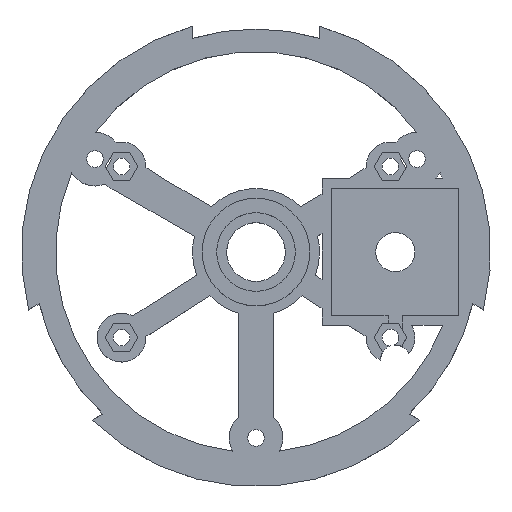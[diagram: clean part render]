
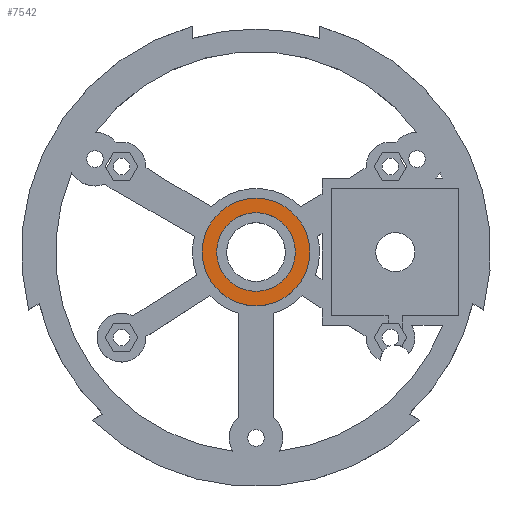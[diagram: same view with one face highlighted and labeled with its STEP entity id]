
A CAD part, top view. The second image highlights one B-rep face of the part: STEP entity #7542.
In plain terms, the highlighted planar face has unit normal (0, 0, 1).
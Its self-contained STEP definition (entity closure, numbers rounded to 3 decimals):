
#1625 = CYLINDRICAL_SURFACE('',#1626,11.);
#1626 = AXIS2_PLACEMENT_3D('',#1627,#1628,#1629);
#1627 = CARTESIAN_POINT('',(0.,0.,12.257));
#1628 = DIRECTION('',(-0.,-0.,-1.));
#1629 = DIRECTION('',(1.,0.,0.));
#7469 = CYLINDRICAL_SURFACE('',#7470,8.05);
#7470 = AXIS2_PLACEMENT_3D('',#7471,#7472,#7473);
#7471 = CARTESIAN_POINT('',(0.,0.,10.957));
#7472 = DIRECTION('',(-0.,-0.,-1.));
#7473 = DIRECTION('',(1.,0.,0.));
#7489 = VERTEX_POINT('',#7490);
#7490 = CARTESIAN_POINT('',(8.05,0.,15.957));
#7511 = EDGE_CURVE('',#7489,#7489,#7512,.T.);
#7512 = SURFACE_CURVE('',#7513,(#7518,#7525),.PCURVE_S1.);
#7513 = CIRCLE('',#7514,8.05);
#7514 = AXIS2_PLACEMENT_3D('',#7515,#7516,#7517);
#7515 = CARTESIAN_POINT('',(0.,0.,15.957));
#7516 = DIRECTION('',(0.,0.,-1.));
#7517 = DIRECTION('',(1.,0.,0.));
#7518 = PCURVE('',#7469,#7519);
#7519 = DEFINITIONAL_REPRESENTATION('',(#7520),#7524);
#7520 = LINE('',#7521,#7522);
#7521 = CARTESIAN_POINT('',(-6.283,-5.));
#7522 = VECTOR('',#7523,1.);
#7523 = DIRECTION('',(1.,-0.));
#7524 = ( GEOMETRIC_REPRESENTATION_CONTEXT(2) 
PARAMETRIC_REPRESENTATION_CONTEXT() REPRESENTATION_CONTEXT('2D SPACE',''
  ) );
#7525 = PCURVE('',#7526,#7531);
#7526 = PLANE('',#7527);
#7527 = AXIS2_PLACEMENT_3D('',#7528,#7529,#7530);
#7528 = CARTESIAN_POINT('',(0.,0.,
    15.957));
#7529 = DIRECTION('',(0.,0.,1.));
#7530 = DIRECTION('',(1.,0.,-0.));
#7531 = DEFINITIONAL_REPRESENTATION('',(#7532),#7540);
#7532 = ( BOUNDED_CURVE() B_SPLINE_CURVE(2,(#7533,#7534,#7535,#7536,
#7537,#7538,#7539),.UNSPECIFIED.,.T.,.F.) B_SPLINE_CURVE_WITH_KNOTS((1,2
    ,2,2,2,1),(-2.094,0.,2.094,4.189,
6.283,8.378),.UNSPECIFIED.) CURVE() 
GEOMETRIC_REPRESENTATION_ITEM() RATIONAL_B_SPLINE_CURVE((1.,0.5,1.,0.5,
1.,0.5,1.)) REPRESENTATION_ITEM('') );
#7533 = CARTESIAN_POINT('',(8.05,0.));
#7534 = CARTESIAN_POINT('',(8.05,-13.943));
#7535 = CARTESIAN_POINT('',(-4.025,-6.972));
#7536 = CARTESIAN_POINT('',(-16.1,0.));
#7537 = CARTESIAN_POINT('',(-4.025,6.972));
#7538 = CARTESIAN_POINT('',(8.05,13.943));
#7539 = CARTESIAN_POINT('',(8.05,0.));
#7540 = ( GEOMETRIC_REPRESENTATION_CONTEXT(2) 
PARAMETRIC_REPRESENTATION_CONTEXT() REPRESENTATION_CONTEXT('2D SPACE',''
  ) );
#7542 = ADVANCED_FACE('',(#7543,#7569),#7526,.T.);
#7543 = FACE_BOUND('',#7544,.T.);
#7544 = EDGE_LOOP('',(#7545));
#7545 = ORIENTED_EDGE('',*,*,#7546,.T.);
#7546 = EDGE_CURVE('',#7547,#7547,#7549,.T.);
#7547 = VERTEX_POINT('',#7548);
#7548 = CARTESIAN_POINT('',(11.,0.,15.957));
#7549 = SURFACE_CURVE('',#7550,(#7555,#7562),.PCURVE_S1.);
#7550 = CIRCLE('',#7551,11.);
#7551 = AXIS2_PLACEMENT_3D('',#7552,#7553,#7554);
#7552 = CARTESIAN_POINT('',(0.,0.,15.957));
#7553 = DIRECTION('',(0.,0.,1.));
#7554 = DIRECTION('',(1.,0.,0.));
#7555 = PCURVE('',#7526,#7556);
#7556 = DEFINITIONAL_REPRESENTATION('',(#7557),#7561);
#7557 = CIRCLE('',#7558,11.);
#7558 = AXIS2_PLACEMENT_2D('',#7559,#7560);
#7559 = CARTESIAN_POINT('',(0.,0.));
#7560 = DIRECTION('',(1.,0.));
#7561 = ( GEOMETRIC_REPRESENTATION_CONTEXT(2) 
PARAMETRIC_REPRESENTATION_CONTEXT() REPRESENTATION_CONTEXT('2D SPACE',''
  ) );
#7562 = PCURVE('',#1625,#7563);
#7563 = DEFINITIONAL_REPRESENTATION('',(#7564),#7568);
#7564 = LINE('',#7565,#7566);
#7565 = CARTESIAN_POINT('',(-0.,-3.7));
#7566 = VECTOR('',#7567,1.);
#7567 = DIRECTION('',(-1.,0.));
#7568 = ( GEOMETRIC_REPRESENTATION_CONTEXT(2) 
PARAMETRIC_REPRESENTATION_CONTEXT() REPRESENTATION_CONTEXT('2D SPACE',''
  ) );
#7569 = FACE_BOUND('',#7570,.T.);
#7570 = EDGE_LOOP('',(#7571));
#7571 = ORIENTED_EDGE('',*,*,#7511,.T.);
